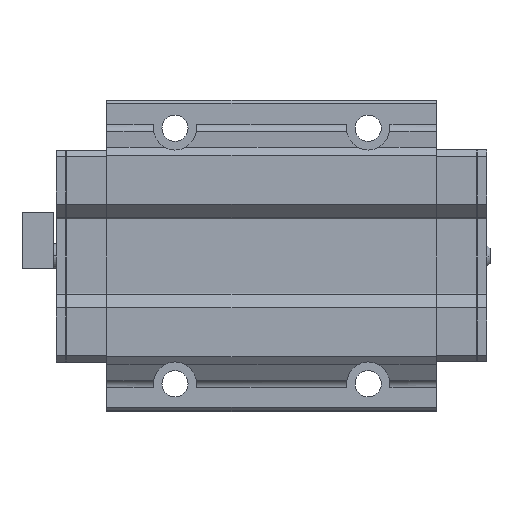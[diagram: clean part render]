
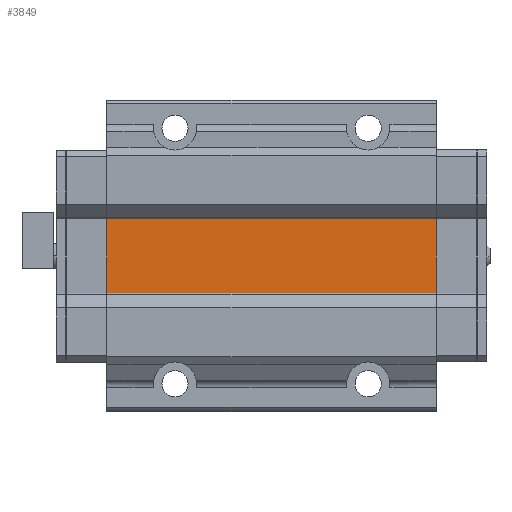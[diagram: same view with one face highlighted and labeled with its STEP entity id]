
A CAD part, front view. The second image highlights one B-rep face of the part: STEP entity #3849.
In plain terms, the highlighted planar face has unit normal (0, -1, 0).
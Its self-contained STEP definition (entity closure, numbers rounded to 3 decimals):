
#110 = EDGE_CURVE ( 'NONE', #10069, #8490, #7321, .T. ) ;
#566 = CARTESIAN_POINT ( 'NONE',  ( 52.9, 0., 6.626 ) ) ;
#938 = DIRECTION ( 'NONE',  ( -1., 0., 0. ) ) ;
#1325 = DIRECTION ( 'NONE',  ( 0., 0., -1. ) ) ;
#1836 = DIRECTION ( 'NONE',  ( 0., 0., 1. ) ) ;
#1971 = CARTESIAN_POINT ( 'NONE',  ( 52.9, 0., 13.251 ) ) ;
#2034 = VECTOR ( 'NONE', #1325, 1000. ) ;
#2908 = EDGE_LOOP ( 'NONE', ( #10652, #11696, #11281, #10117 ) ) ;
#3514 = EDGE_CURVE ( 'NONE', #10069, #6300, #10975, .T. ) ;
#3735 = VECTOR ( 'NONE', #938, 1000. ) ;
#3849 = ADVANCED_FACE ( 'NONE', ( #6986 ), #7680, .T. ) ;
#4681 = EDGE_CURVE ( 'NONE', #6300, #6980, #11159, .T. ) ;
#4769 = CARTESIAN_POINT ( 'NONE',  ( -52.9, 0., 6.626 ) ) ;
#5222 = DIRECTION ( 'NONE',  ( -1., 0., 0. ) ) ;
#5278 = CARTESIAN_POINT ( 'NONE',  ( 69.1, 0., -13.251 ) ) ;
#5900 = CARTESIAN_POINT ( 'NONE',  ( -52.9, 0., 13.251 ) ) ;
#5913 = AXIS2_PLACEMENT_3D ( 'NONE', #5900, #10577, #8747 ) ;
#5954 = VECTOR ( 'NONE', #5222, 1000. ) ;
#6090 = CARTESIAN_POINT ( 'NONE',  ( 52.9, 0., -13.251 ) ) ;
#6300 = VERTEX_POINT ( 'NONE', #6090 ) ;
#6980 = VERTEX_POINT ( 'NONE', #10725 ) ;
#6986 = FACE_OUTER_BOUND ( 'NONE', #2908, .T. ) ;
#7321 = LINE ( 'NONE', #11483, #3735 ) ;
#7680 = PLANE ( 'NONE',  #5913 ) ;
#8490 = VERTEX_POINT ( 'NONE', #10341 ) ;
#8747 = DIRECTION ( 'NONE',  ( 0., 0., -1. ) ) ;
#10069 = VERTEX_POINT ( 'NONE', #1971 ) ;
#10117 = ORIENTED_EDGE ( 'NONE', *, *, #4681, .F. ) ;
#10341 = CARTESIAN_POINT ( 'NONE',  ( -52.9, 0., 13.251 ) ) ;
#10577 = DIRECTION ( 'NONE',  ( 0., -1., 0. ) ) ;
#10652 = ORIENTED_EDGE ( 'NONE', *, *, #3514, .F. ) ;
#10725 = CARTESIAN_POINT ( 'NONE',  ( -52.9, 0., -13.251 ) ) ;
#10975 = LINE ( 'NONE', #566, #2034 ) ;
#11084 = VECTOR ( 'NONE', #1836, 1000. ) ;
#11159 = LINE ( 'NONE', #5278, #5954 ) ;
#11281 = ORIENTED_EDGE ( 'NONE', *, *, #12367, .F. ) ;
#11483 = CARTESIAN_POINT ( 'NONE',  ( 69.1, 0., 13.251 ) ) ;
#11696 = ORIENTED_EDGE ( 'NONE', *, *, #110, .T. ) ;
#12367 = EDGE_CURVE ( 'NONE', #6980, #8490, #12453, .T. ) ;
#12453 = LINE ( 'NONE', #4769, #11084 ) ;
